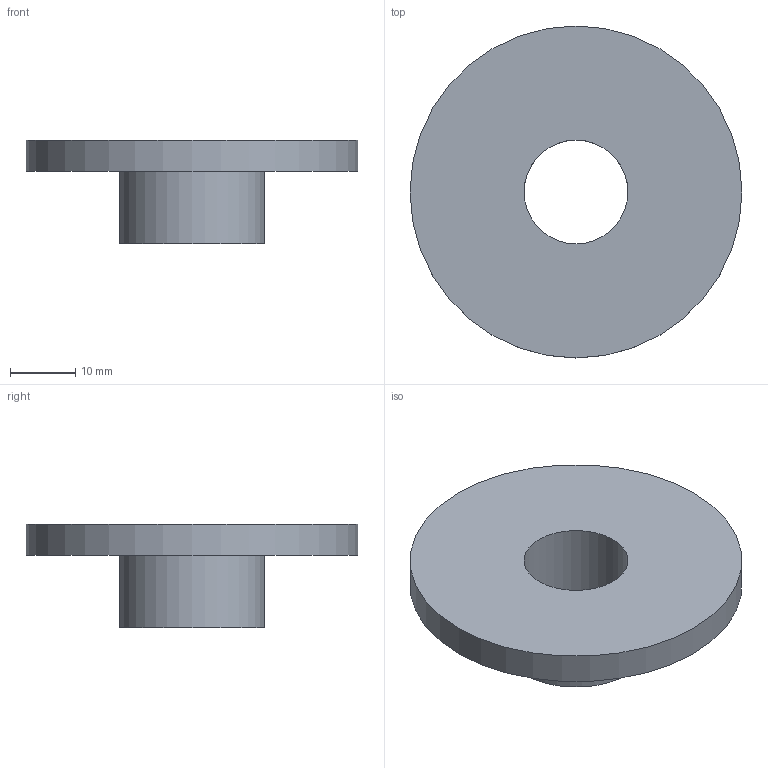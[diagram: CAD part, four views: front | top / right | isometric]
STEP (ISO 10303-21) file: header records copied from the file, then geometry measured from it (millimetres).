
FILE_DESCRIPTION((''),'2;1');
FILE_NAME('C:\REVIT SHARED FILES\STP\HG\HG-63.stp','2013-09-06T14:47:01',('rramoutar'),(''),'Autodesk Inventor 2012','Autodesk Inventor 2012','');
FILE_SCHEMA(('AUTOMOTIVE_DESIGN { 1 0 10303 214 1 1 1 1 }'));
Length unit declared in the file: inch
Products named in the file (1): HG-63
Bounding box: 50.8 x 50.8 x 15.88 mm (x, y, z)
Volume: 10821.7 mm3; surface area: 5985.5 mm2
Topology: 1 solids, 1 shells, 6 faces, 9 edges, 6 vertices
Faces by surface type: plane 3, cylinder 3
Full cylindrical faces by diameter (mm): 15.875 x1, 22.225 x1, 50.8 x1
Entity records: 156 total; most frequent: DIRECTION 26, CARTESIAN_POINT 19, AXIS2_PLACEMENT_3D 13, ORIENTED_EDGE 12, EDGE_LOOP 12, VERTEX_POINT 6, CIRCLE 6, EDGE_CURVE 6
